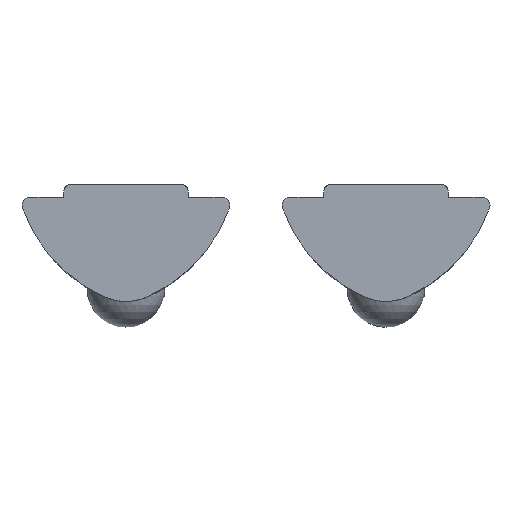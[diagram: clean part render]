
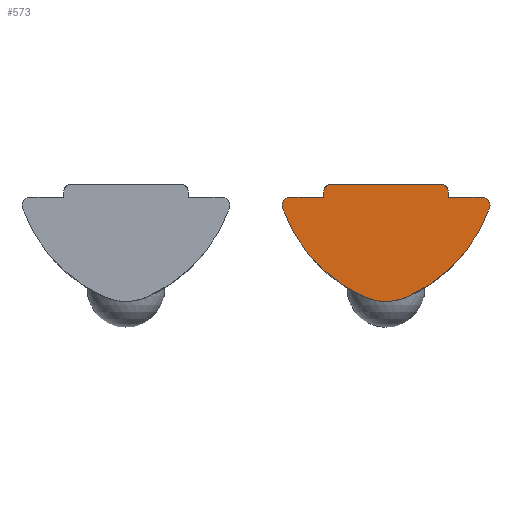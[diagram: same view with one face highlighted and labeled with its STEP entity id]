
A CAD part, front view. The second image highlights one B-rep face of the part: STEP entity #573.
In plain terms, the highlighted planar face has unit normal (0, -1, 0).
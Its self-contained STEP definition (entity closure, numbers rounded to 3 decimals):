
#63=PLANE('',#645);
#105=FACE_OUTER_BOUND('',#134,.T.);
#134=EDGE_LOOP('',(#525,#526,#527,#528,#529,#530,#531,#532,#533,#534,#535,
#536));
#137=CIRCLE('',#606,5.85);
#144=CIRCLE('',#617,0.3);
#145=CIRCLE('',#621,0.3);
#148=CIRCLE('',#627,5.85);
#152=CIRCLE('',#636,2.);
#153=CIRCLE('',#640,0.3);
#154=CIRCLE('',#644,0.3);
#191=LINE('',#1863,#225);
#193=LINE('',#1867,#227);
#198=LINE('',#1882,#232);
#207=LINE('',#1980,#241);
#209=LINE('',#1984,#243);
#225=VECTOR('',#707,1000.);
#227=VECTOR('',#711,1000.);
#232=VECTOR('',#726,1000.);
#241=VECTOR('',#769,1000.);
#243=VECTOR('',#773,1000.);
#250=VERTEX_POINT('',#835);
#251=VERTEX_POINT('',#837);
#276=VERTEX_POINT('',#1853);
#277=VERTEX_POINT('',#1855);
#279=VERTEX_POINT('',#1861);
#280=VERTEX_POINT('',#1865);
#282=VERTEX_POINT('',#1871);
#285=VERTEX_POINT('',#1881);
#286=VERTEX_POINT('',#1885);
#292=VERTEX_POINT('',#1923);
#295=VERTEX_POINT('',#1976);
#296=VERTEX_POINT('',#1982);
#303=EDGE_CURVE('',#251,#250,#137,.T.);
#339=EDGE_CURVE('',#277,#276,#144,.T.);
#343=EDGE_CURVE('',#276,#279,#191,.T.);
#345=EDGE_CURVE('',#280,#277,#193,.T.);
#347=EDGE_CURVE('',#282,#280,#145,.T.);
#352=EDGE_CURVE('',#285,#282,#198,.T.);
#361=EDGE_CURVE('',#286,#292,#148,.T.);
#370=EDGE_CURVE('',#250,#286,#152,.T.);
#372=EDGE_CURVE('',#292,#295,#153,.T.);
#373=EDGE_CURVE('',#295,#285,#207,.T.);
#375=EDGE_CURVE('',#279,#296,#209,.T.);
#376=EDGE_CURVE('',#296,#251,#154,.T.);
#525=ORIENTED_EDGE('',*,*,#372,.T.);
#526=ORIENTED_EDGE('',*,*,#373,.T.);
#527=ORIENTED_EDGE('',*,*,#352,.T.);
#528=ORIENTED_EDGE('',*,*,#347,.T.);
#529=ORIENTED_EDGE('',*,*,#345,.T.);
#530=ORIENTED_EDGE('',*,*,#339,.T.);
#531=ORIENTED_EDGE('',*,*,#343,.T.);
#532=ORIENTED_EDGE('',*,*,#375,.T.);
#533=ORIENTED_EDGE('',*,*,#376,.T.);
#534=ORIENTED_EDGE('',*,*,#303,.T.);
#535=ORIENTED_EDGE('',*,*,#370,.T.);
#536=ORIENTED_EDGE('',*,*,#361,.T.);
#573=ADVANCED_FACE('',(#105),#63,.T.);
#606=AXIS2_PLACEMENT_3D('',#838,#668,#669);
#617=AXIS2_PLACEMENT_3D('',#1856,#700,#701);
#621=AXIS2_PLACEMENT_3D('',#1872,#715,#716);
#627=AXIS2_PLACEMENT_3D('',#1925,#736,#737);
#636=AXIS2_PLACEMENT_3D('',#1972,#756,#757);
#640=AXIS2_PLACEMENT_3D('',#1978,#765,#766);
#644=AXIS2_PLACEMENT_3D('',#1986,#776,#777);
#645=AXIS2_PLACEMENT_3D('',#1987,#778,#779);
#668=DIRECTION('center_axis',(0.,-1.,0.));
#669=DIRECTION('ref_axis',(1.,0.,0.));
#700=DIRECTION('center_axis',(0.,-1.,0.));
#701=DIRECTION('ref_axis',(1.,0.,0.));
#707=DIRECTION('',(0.,0.,-1.));
#711=DIRECTION('',(-1.,0.,0.));
#715=DIRECTION('center_axis',(0.,-1.,0.));
#716=DIRECTION('ref_axis',(-1.,0.,0.));
#726=DIRECTION('',(0.,0.,1.));
#736=DIRECTION('center_axis',(0.,-1.,0.));
#737=DIRECTION('ref_axis',(1.,0.,0.));
#756=DIRECTION('center_axis',(0.,-1.,0.));
#757=DIRECTION('ref_axis',(1.,0.,0.));
#765=DIRECTION('center_axis',(0.,-1.,0.));
#766=DIRECTION('ref_axis',(-1.,0.,0.));
#769=DIRECTION('',(-1.,0.,0.));
#773=DIRECTION('',(-1.,0.,0.));
#776=DIRECTION('center_axis',(0.,-1.,0.));
#777=DIRECTION('ref_axis',(1.,0.,0.));
#778=DIRECTION('center_axis',(0.,-1.,0.));
#779=DIRECTION('ref_axis',(0.,0.,-1.));
#835=CARTESIAN_POINT('',(-0.84,-5.9,-1.815));
#837=CARTESIAN_POINT('',(-3.983,-5.9,1.6));
#838=CARTESIAN_POINT('Origin',(1.54,-5.9,3.529));
#1853=CARTESIAN_POINT('',(-2.4,-5.9,2.2));
#1855=CARTESIAN_POINT('',(-2.1,-5.9,2.5));
#1856=CARTESIAN_POINT('Origin',(-2.1,-5.9,2.2));
#1861=CARTESIAN_POINT('',(-2.4,-5.9,2.));
#1863=CARTESIAN_POINT('',(-2.4,-5.9,2.2));
#1865=CARTESIAN_POINT('',(2.1,-5.9,2.5));
#1867=CARTESIAN_POINT('',(-2.1,-5.9,2.5));
#1871=CARTESIAN_POINT('',(2.4,-5.9,2.2));
#1872=CARTESIAN_POINT('Origin',(2.1,-5.9,2.2));
#1881=CARTESIAN_POINT('',(2.4,-5.9,2.));
#1882=CARTESIAN_POINT('',(2.4,-5.9,2.2));
#1885=CARTESIAN_POINT('',(0.818,-5.9,-1.82));
#1923=CARTESIAN_POINT('',(3.983,-5.9,1.6));
#1925=CARTESIAN_POINT('Origin',(-1.538,-5.9,3.534));
#1972=CARTESIAN_POINT('Origin',(-0.006,-5.9,0.002));
#1976=CARTESIAN_POINT('',(3.7,-5.9,2.));
#1978=CARTESIAN_POINT('Origin',(3.7,-5.9,1.7));
#1980=CARTESIAN_POINT('',(3.7,-5.9,2.));
#1982=CARTESIAN_POINT('',(-3.7,-5.9,2.));
#1984=CARTESIAN_POINT('',(-3.7,-5.9,2.));
#1986=CARTESIAN_POINT('Origin',(-3.7,-5.9,1.7));
#1987=CARTESIAN_POINT('Origin',(3.7,-5.9,1.7));
